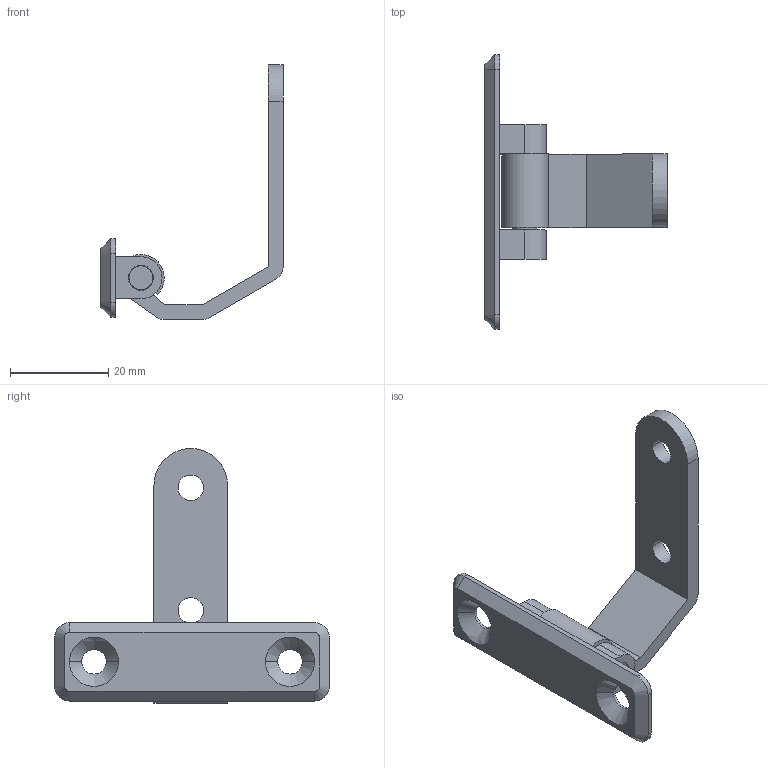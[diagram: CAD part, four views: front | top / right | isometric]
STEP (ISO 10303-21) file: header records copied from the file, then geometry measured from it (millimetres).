
FILE_DESCRIPTION(/* description */ (''),/* implementation_level */ '2;1');
FILE_NAME(/* name */ 'JL015-1',/* time_stamp */ '2024-10-19T08:19:45+08:00',/* author */ (''),/* organization */ (''),/* preprocessor_version */ 'ST-DEVELOPER v19.2',/* originating_system */ 'Rhino 8.5',/* authorisation */ '');
FILE_SCHEMA (('CONFIG_CONTROL_DESIGN'));
Length unit declared in the file: millimetre
Products named in the file (1): Document
Bounding box: 37.18 x 56 x 52 mm (x, y, z)
Volume: 7067.7 mm3; surface area: 6432.8 mm2
Topology: 3 solids, 3 shells, 260 faces, 681 edges, 429 vertices
Faces by surface type: cylinder 159, plane 93, bspline 8
Entity records: 9234 total; most frequent: CARTESIAN_POINT 2764, ORIENTED_EDGE 1360, DIRECTION 1168, AXIS2_PLACEMENT_3D 710, EDGE_CURVE 680, CIRCLE 455, TRIMMED_CURVE 454, VERTEX_POINT 428
